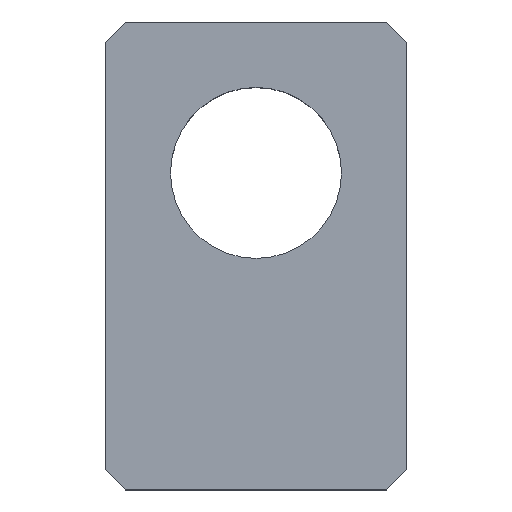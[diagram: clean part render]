
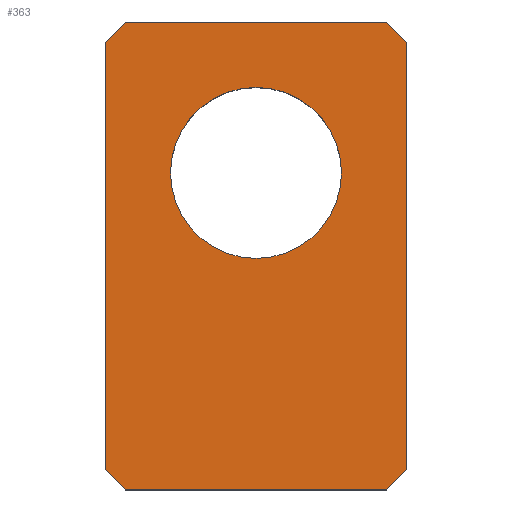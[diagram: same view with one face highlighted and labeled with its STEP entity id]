
A CAD part, top view. The second image highlights one B-rep face of the part: STEP entity #363.
In plain terms, the highlighted planar face has unit normal (0, 0, 1).
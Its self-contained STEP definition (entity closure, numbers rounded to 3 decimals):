
#8 = ORIENTED_EDGE ( 'NONE', *, *, #344, .F. ) ;
#13 = VECTOR ( 'NONE', #379, 1000. ) ;
#21 = CARTESIAN_POINT ( 'NONE',  ( -1.7, 0., 3. ) ) ;
#23 = CARTESIAN_POINT ( 'NONE',  ( 1.7, 0., 3. ) ) ;
#26 = ORIENTED_EDGE ( 'NONE', *, *, #190, .T. ) ;
#30 = DIRECTION ( 'NONE',  ( 1., 0., 0. ) ) ;
#42 = VECTOR ( 'NONE', #276, 1000. ) ;
#52 = CARTESIAN_POINT ( 'NONE',  ( -3., 2.6, 3. ) ) ;
#53 = CARTESIAN_POINT ( 'NONE',  ( 0., 0., 3. ) ) ;
#55 = DIRECTION ( 'NONE',  ( 0.707, 0.707, 0. ) ) ;
#58 = CARTESIAN_POINT ( 'NONE',  ( 2.6, -6.3, 3. ) ) ;
#69 = FACE_OUTER_BOUND ( 'NONE', #413, .T. ) ;
#86 = VECTOR ( 'NONE', #304, 1000. ) ;
#87 = CIRCLE ( 'NONE', #257, 1.7 ) ;
#88 = CARTESIAN_POINT ( 'NONE',  ( -2.6, -6.3, 3. ) ) ;
#90 = VERTEX_POINT ( 'NONE', #224 ) ;
#92 = EDGE_CURVE ( 'NONE', #236, #243, #393, .T. ) ;
#104 = CARTESIAN_POINT ( 'NONE',  ( 0., 0., 3. ) ) ;
#109 = LINE ( 'NONE', #237, #13 ) ;
#127 = AXIS2_PLACEMENT_3D ( 'NONE', #53, #306, #442 ) ;
#136 = PLANE ( 'NONE',  #182 ) ;
#137 = CARTESIAN_POINT ( 'NONE',  ( -2.6, -6.3, 3. ) ) ;
#140 = FACE_BOUND ( 'NONE', #443, .T. ) ;
#143 = EDGE_CURVE ( 'NONE', #153, #274, #367, .T. ) ;
#145 = DIRECTION ( 'NONE',  ( -0.707, -0.707, 0. ) ) ;
#146 = ORIENTED_EDGE ( 'NONE', *, *, #143, .T. ) ;
#150 = ORIENTED_EDGE ( 'NONE', *, *, #92, .T. ) ;
#153 = VERTEX_POINT ( 'NONE', #331 ) ;
#161 = DIRECTION ( 'NONE',  ( 0., -1., 0. ) ) ;
#164 = EDGE_CURVE ( 'NONE', #243, #341, #329, .T. ) ;
#165 = VECTOR ( 'NONE', #249, 1000. ) ;
#174 = DIRECTION ( 'NONE',  ( 0., 0., 1. ) ) ;
#175 = ORIENTED_EDGE ( 'NONE', *, *, #164, .T. ) ;
#176 = DIRECTION ( 'NONE',  ( 0., 0., 1. ) ) ;
#177 = ORIENTED_EDGE ( 'NONE', *, *, #275, .F. ) ;
#182 = AXIS2_PLACEMENT_3D ( 'NONE', #104, #176, #30 ) ;
#185 = EDGE_CURVE ( 'NONE', #90, #236, #400, .T. ) ;
#190 = EDGE_CURVE ( 'NONE', #284, #90, #233, .T. ) ;
#191 = VECTOR ( 'NONE', #161, 1000. ) ;
#196 = DIRECTION ( 'NONE',  ( -1., 0., 0. ) ) ;
#197 = ORIENTED_EDGE ( 'NONE', *, *, #309, .T. ) ;
#198 = CARTESIAN_POINT ( 'NONE',  ( 2.6, 3., 3. ) ) ;
#205 = ORIENTED_EDGE ( 'NONE', *, *, #421, .T. ) ;
#208 = CARTESIAN_POINT ( 'NONE',  ( 2.6, -6.3, 3. ) ) ;
#211 = CARTESIAN_POINT ( 'NONE',  ( -2.6, 3., 3. ) ) ;
#213 = VERTEX_POINT ( 'NONE', #88 ) ;
#219 = CARTESIAN_POINT ( 'NONE',  ( 3., 2.6, 3. ) ) ;
#224 = CARTESIAN_POINT ( 'NONE',  ( 3., -5.9, 3. ) ) ;
#233 = LINE ( 'NONE', #58, #359 ) ;
#235 = CARTESIAN_POINT ( 'NONE',  ( -2.6, 3., 3. ) ) ;
#236 = VERTEX_POINT ( 'NONE', #431 ) ;
#237 = CARTESIAN_POINT ( 'NONE',  ( -3., -5.9, 3. ) ) ;
#243 = VERTEX_POINT ( 'NONE', #198 ) ;
#249 = DIRECTION ( 'NONE',  ( -0.707, 0.707, 0. ) ) ;
#257 = AXIS2_PLACEMENT_3D ( 'NONE', #338, #174, #375 ) ;
#267 = VERTEX_POINT ( 'NONE', #21 ) ;
#274 = VERTEX_POINT ( 'NONE', #364 ) ;
#275 = EDGE_CURVE ( 'NONE', #376, #267, #332, .T. ) ;
#276 = DIRECTION ( 'NONE',  ( 1., 0., 0. ) ) ;
#284 = VERTEX_POINT ( 'NONE', #208 ) ;
#286 = VECTOR ( 'NONE', #196, 1000. ) ;
#304 = DIRECTION ( 'NONE',  ( 0., 1., 0. ) ) ;
#306 = DIRECTION ( 'NONE',  ( 0., 0., 1. ) ) ;
#309 = EDGE_CURVE ( 'NONE', #274, #213, #109, .T. ) ;
#312 = LINE ( 'NONE', #211, #392 ) ;
#329 = LINE ( 'NONE', #403, #286 ) ;
#331 = CARTESIAN_POINT ( 'NONE',  ( -3., 2.6, 3. ) ) ;
#332 = CIRCLE ( 'NONE', #127, 1.7 ) ;
#333 = CARTESIAN_POINT ( 'NONE',  ( 3., -5.9, 3. ) ) ;
#338 = CARTESIAN_POINT ( 'NONE',  ( 0., 0., 3. ) ) ;
#341 = VERTEX_POINT ( 'NONE', #235 ) ;
#344 = EDGE_CURVE ( 'NONE', #267, #376, #87, .T. ) ;
#359 = VECTOR ( 'NONE', #55, 1000. ) ;
#363 = ADVANCED_FACE ( 'NONE', ( #69, #140 ), #136, .T. ) ;
#364 = CARTESIAN_POINT ( 'NONE',  ( -3., -5.9, 3. ) ) ;
#367 = LINE ( 'NONE', #52, #191 ) ;
#369 = EDGE_CURVE ( 'NONE', #341, #153, #312, .T. ) ;
#375 = DIRECTION ( 'NONE',  ( 1., 0., 0. ) ) ;
#376 = VERTEX_POINT ( 'NONE', #23 ) ;
#379 = DIRECTION ( 'NONE',  ( 0.707, -0.707, 0. ) ) ;
#392 = VECTOR ( 'NONE', #145, 1000. ) ;
#393 = LINE ( 'NONE', #219, #165 ) ;
#400 = LINE ( 'NONE', #333, #86 ) ;
#403 = CARTESIAN_POINT ( 'NONE',  ( 2.6, 3., 3. ) ) ;
#405 = ORIENTED_EDGE ( 'NONE', *, *, #185, .T. ) ;
#413 = EDGE_LOOP ( 'NONE', ( #197, #205, #26, #405, #150, #175, #415, #146 ) ) ;
#415 = ORIENTED_EDGE ( 'NONE', *, *, #369, .T. ) ;
#421 = EDGE_CURVE ( 'NONE', #213, #284, #436, .T. ) ;
#431 = CARTESIAN_POINT ( 'NONE',  ( 3., 2.6, 3. ) ) ;
#436 = LINE ( 'NONE', #137, #42 ) ;
#442 = DIRECTION ( 'NONE',  ( 1., 0., 0. ) ) ;
#443 = EDGE_LOOP ( 'NONE', ( #8, #177 ) ) ;
